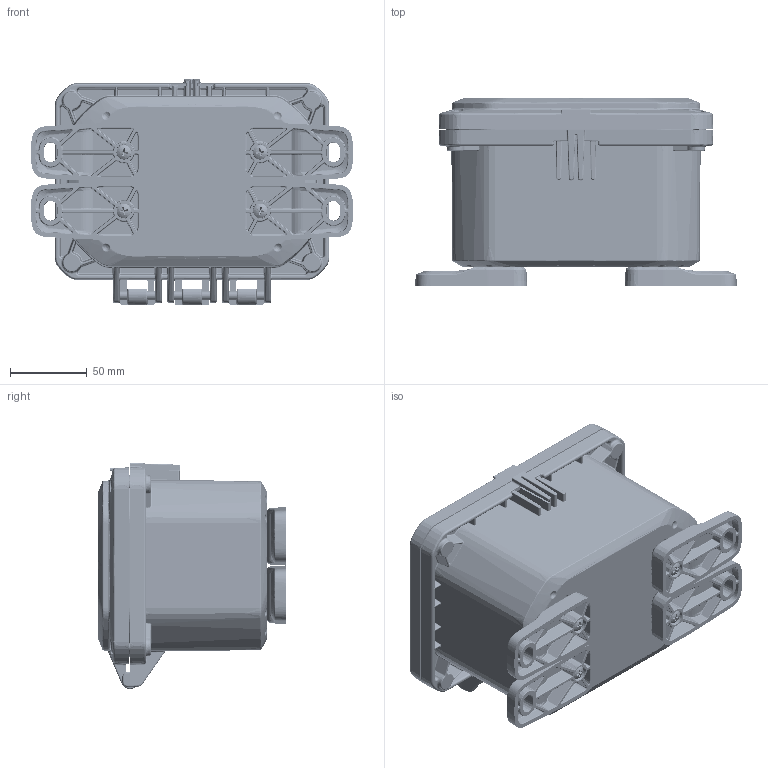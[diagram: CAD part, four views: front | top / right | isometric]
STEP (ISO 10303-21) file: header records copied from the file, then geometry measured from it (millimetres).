
FILE_DESCRIPTION (( 'STEP AP214' ), '1' );
FILE_NAME ('ZH-060404-07.STEP', '2024-10-25T16:22:04', ( '' ), ( '' ), 'SwSTEP 2.0', 'SolidWorks 2024', '' );
FILE_SCHEMA (( 'AUTOMOTIVE_DESIGN' ));
Length unit declared in the file: inch
Products named in the file (10): ZH-01F_ZH-01F-01; LABEL-104; Z_-06043B_ZH-06043B-01; ZH-060404-07; Z_-06041CG_ZH-06041CG-02; Z_-06041C_ZH-06041C-02; INSERTS-4; SCREWS-046_SCREWS-046; Z_-06043BI_ZH-06043BI-01; ZH-0604G
Assembly tree (30 placements, depth 3):
  ZH-060404-07
    Z_-06043BI_ZH-06043BI-01
      Z_-06043B_ZH-06043B-01
      INSERTS-4  x12
      LABEL-104
    Z_-06041CG_ZH-06041CG-02
      Z_-06041C_ZH-06041C-02
      ZH-0604G
    SCREWS-046_SCREWS-046  x8
    ZH-01F_ZH-01F-01  x4
Bounding box: 209.55 x 122.68 x 147.19 mm (x, y, z)
Volume: 537246.9 mm3; surface area: 318177.9 mm2
Topology: 28 solids, 28 shells, 8036 faces, 19679 edges, 11644 vertices
Faces by surface type: bspline 2419, cylinder 1650, cone 1500, plane 1495, torus 766, sphere 206
Entity records: 235220 total; most frequent: CARTESIAN_POINT 139455, ORIENTED_EDGE 22110, DIRECTION 17693, EDGE_CURVE 11055, AXIS2_PLACEMENT_3D 7459, VERTEX_POINT 6424, EDGE_LOOP 4839, FACE_OUTER_BOUND 4728
